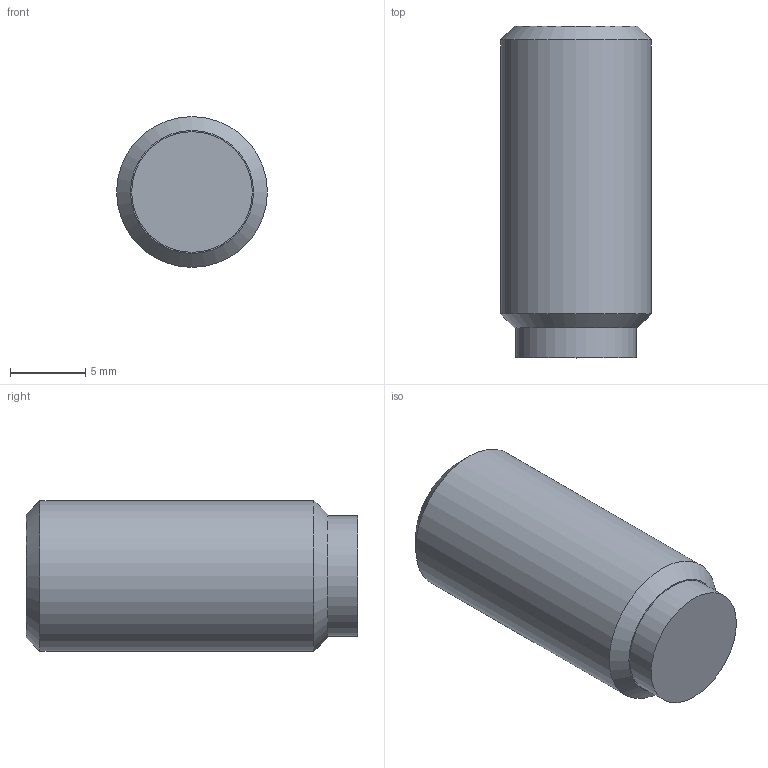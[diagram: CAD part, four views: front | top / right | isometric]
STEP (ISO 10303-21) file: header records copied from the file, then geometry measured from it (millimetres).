
FILE_DESCRIPTION( ( 'STEP AP203' ), '1' );
FILE_NAME( 'C:/Temp/Ganter_Step_05_03_2020/data/3_2/gn913_3/Grub screw GN 913.3-M10-20-MS.stp', '2020-03-13T05:35:52', ( 'License CC BY-ND 4.0' ), ( 'CADENAS' ), ' ', 'PARTsolutions', ' ' );
FILE_SCHEMA( ( 'CONFIG_CONTROL_DESIGN' ) );
Length unit declared in the file: millimetre
Products named in the file (1): _Grub screw GN 913.3-M10-20-MS
Bounding box: 10 x 22 x 10 mm (x, y, z)
Volume: 1516.5 mm3; surface area: 903.5 mm2
Topology: 1 solids, 1 shells, 14 faces, 28 edges, 18 vertices
Faces by surface type: plane 10, cylinder 2, cone 2
Full cylindrical faces by diameter (mm): 8 x1, 10 x1
Entity records: 386 total; most frequent: DIRECTION 60, CARTESIAN_POINT 57, ORIENTED_EDGE 48, EDGE_CURVE 24, AXIS2_PLACEMENT_3D 21, EDGE_LOOP 20, VERTEX_POINT 18, LINE 18
